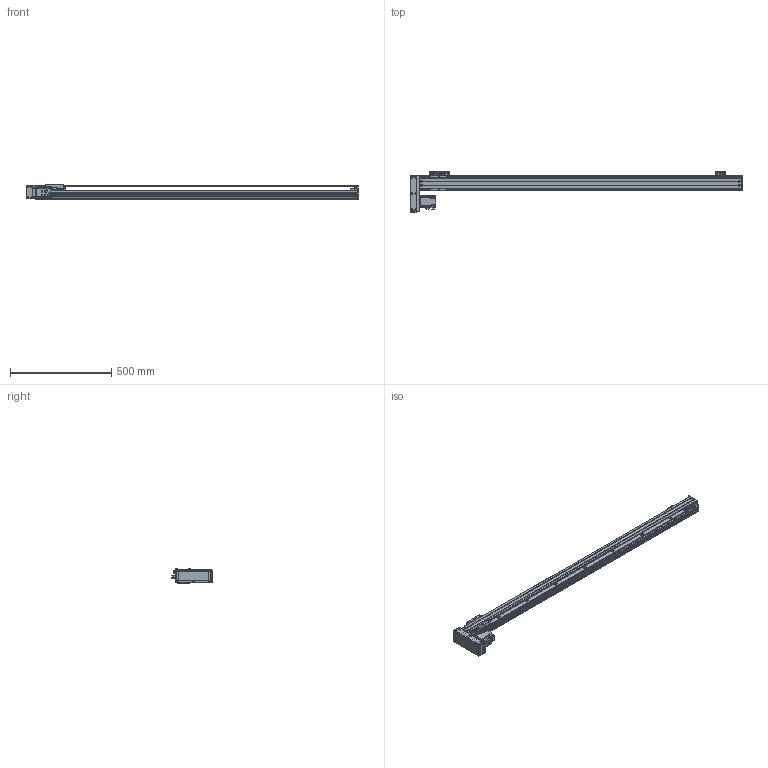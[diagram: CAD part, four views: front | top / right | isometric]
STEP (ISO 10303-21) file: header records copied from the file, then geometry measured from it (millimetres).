
FILE_DESCRIPTION(/* description */ (''),/* implementation_level */ '2;1');
FILE_NAME(/* name */ '\\192.168.0.160\disk1\HAN SHIN Master\B-설계부문\C-표준\B-2024년\BC02-표준도면\+로봇 개선표준도면\표준 승인도 작업 폴더\3D\HG75\HG75병렬\우병렬\HG75-R20-N1B-1400-L10.stp',/* time_stamp */ '2024-02-02T14:25:49+09:00',/* author */ ('User'),/* organization */ (''),/* preprocessor_version */ 'ST-DEVELOPER v18.1',/* originating_system */ 'Autodesk Inventor 2022',/* authorisation */ '');
FILE_SCHEMA (('AUTOMOTIVE_DESIGN { 1 0 10303 214 3 1 1 }','MODEL_BASED_INTEGRATED_MANUFACTURING_SCHEMA'));
Products named in the file (25): HG75-L20-N1B-0500-R10 - 간소화; BASE; HR75 FRONT BLOCK; HR75 REAR COVER-TENTION; HR75 TENSION REAR BLOCK; HG3UPCOV001; H 15F_BLOCK; HG90STOPPER - 20L; HG90STOPPER - 27L; MOTOR PLATE-200W(MITSUBISHI); 화살표; hg-kr23_; M-5HL-4; HR75 W TABLE; LMKE1520 NUT; HR75-LR-BELT COVER(200W); HR75-BELT COVER-COVER2; HR75-BELT COVER-COVER; HR65-BELT COVER-COVER3; HC75-LR-MOTOR PLATE(200W)-사출_MIR; HR65,75 SENSOR DOG; NIPPLE CAP(신규); hsr_ftht_A-M6F_grease_nipple_joint; EE_SX674A; SENSOR BRK(EE-SX674A)
Assembly tree (32 placements, depth 2):
  HG75-L20-N1B-0500-R10 - 간소화
    BASE
    HR75 FRONT BLOCK
    HR75 REAR COVER-TENTION
    HR75 TENSION REAR BLOCK
    HG3UPCOV001
    H 15F_BLOCK
    HG90STOPPER - 20L
    HG90STOPPER - 27L
    MOTOR PLATE-200W(MITSUBISHI)
    화살표  x2
    hg-kr23_
    M-5HL-4
    HR75 W TABLE
    LMKE1520 NUT
    SENSOR BRK(EE-SX674A)  x3
    EE_SX674A  x3
    HR75-LR-BELT COVER(200W)
    HR75-BELT COVER-COVER2
    HR75-BELT COVER-COVER
    HR65-BELT COVER-COVER3  x2
    HC75-LR-MOTOR PLATE(200W)-사출_MIR
    HR65,75 SENSOR DOG
    NIPPLE CAP(신규)  x2
    hsr_ftht_A-M6F_grease_nipple_joint  x2
Bounding box: 1639 x 199 x 73 mm (x, y, z)
Volume: 2376869.3 mm3; surface area: 1104887.8 mm2
Topology: 32 solids, 32 shells, 3132 faces, 8627 edges, 5699 vertices
Faces by surface type: plane 2263, cylinder 684, cone 141, sphere 24, torus 12, bspline 8
Full cylindrical faces by diameter (mm): 1.8 x1, 2 x4, 2.013 x2, 2.459 x16, 2.5 x2, 3 x8, 3.242 x56, 3.4 x20, 3.5 x6, 4.134 x52, 4.5 x22, 4.917 x5, 5 x31, 5.5 x36, 5.6 x10, 5.8 x4, 5.9 x8, 6 x6, 6.5 x5, 7 x1, 8 x1, 9.5 x32, 14 x1, 15 x3, 17 x1, 20 x1, 25 x2, 28 x1, 32 x2, 33.7 x1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
Entity records: 94225 total; most frequent: CARTESIAN_POINT 17011, ORIENTED_EDGE 15628, DIRECTION 14919, EDGE_CURVE 7814, LINE 6283, VECTOR 6283, VERTEX_POINT 5200, AXIS2_PLACEMENT_3D 4318
